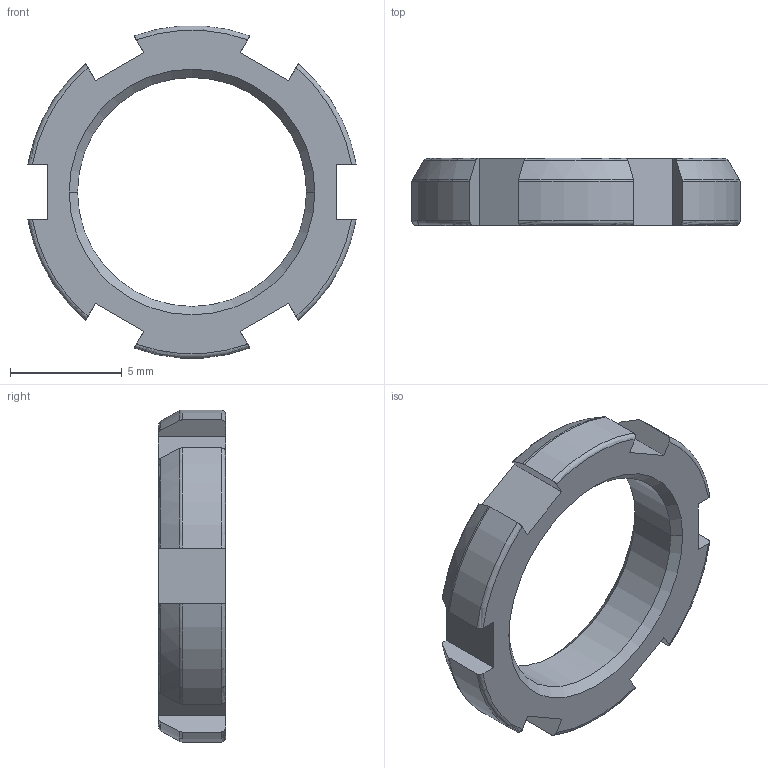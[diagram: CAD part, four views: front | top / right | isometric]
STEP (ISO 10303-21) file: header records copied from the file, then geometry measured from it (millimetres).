
FILE_DESCRIPTION((''),'2;1');
FILE_NAME('00044034','2020-10-13T07:56:04',('EUnterhaslberger'),(''),'CREO PARAMETRIC BY PTC INC, 2018300','CREO PARAMETRIC BY PTC INC, 2018300','');
FILE_SCHEMA(('AP242_MANAGED_MODEL_BASED_3D_ENGINEERING_MIM_LF { 1 0 10303 442 1 1 4 }'));
Length unit declared in the file: millimetre
Products named in the file (1): 00044034
Bounding box: 14.69 x 3 x 14.86 mm (x, y, z)
Volume: 219.5 mm3; surface area: 388.3 mm2
Topology: 1 solids, 1 shells, 56 faces, 158 edges, 104 vertices
Faces by surface type: plane 20, torus 18, cone 10, cylinder 8
Entity records: 2523 total; most frequent: CARTESIAN_POINT 550, ORIENTED_EDGE 316, DIRECTION 266, PRESENTATION_STYLE_ASSIGNMENT 159, STYLED_ITEM 159, CURVE_STYLE 158, EDGE_CURVE 158, VERTEX_POINT 104
